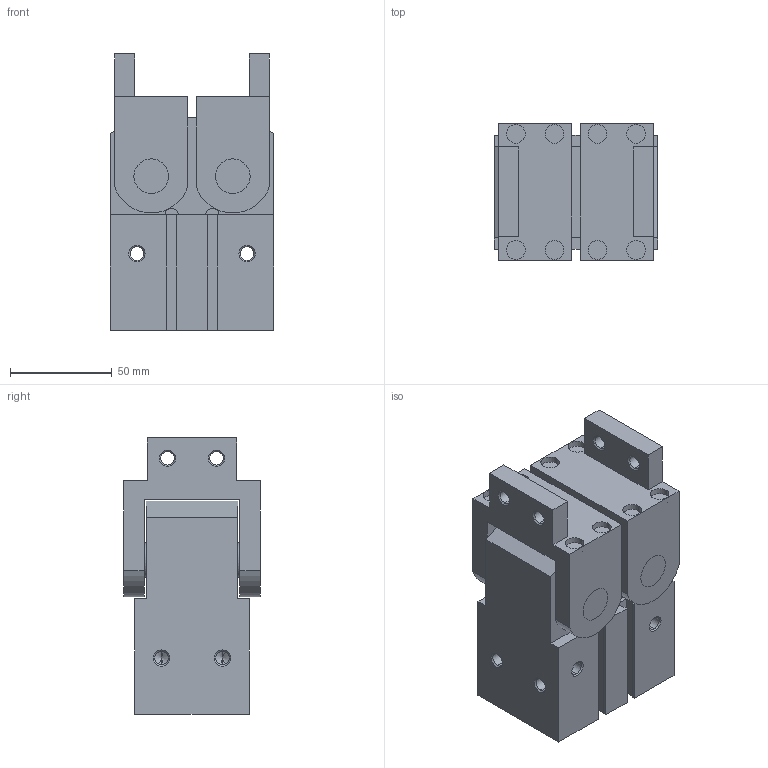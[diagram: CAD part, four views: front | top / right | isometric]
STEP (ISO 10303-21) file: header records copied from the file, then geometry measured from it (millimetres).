
FILE_DESCRIPTION (( 'STEP AP203' ), '1' );
FILE_NAME ('CHW2-40D1.STEP', '2020-04-02T13:35:00', ( '' ), ( '' ), 'SwSTEP 2.0', 'SolidWorks 2019', '' );
FILE_SCHEMA (( 'CONFIG_CONTROL_DESIGN' ));
Length unit declared in the file: millimetre
Products named in the file (1): CHW2-40D1
Bounding box: 80 x 67 x 135.5 mm (x, y, z)
Volume: 522752.4 mm3; surface area: 80958.9 mm2
Topology: 3 solids, 3 shells, 225 faces, 542 edges, 334 vertices
Faces by surface type: plane 97, cylinder 80, cone 48
Entity records: 6549 total; most frequent: DIRECTION 1178, CARTESIAN_POINT 1090, ORIENTED_EDGE 1060, EDGE_CURVE 530, AXIS2_PLACEMENT_3D 422, VECTOR 334, VERTEX_POINT 334, LINE 334
